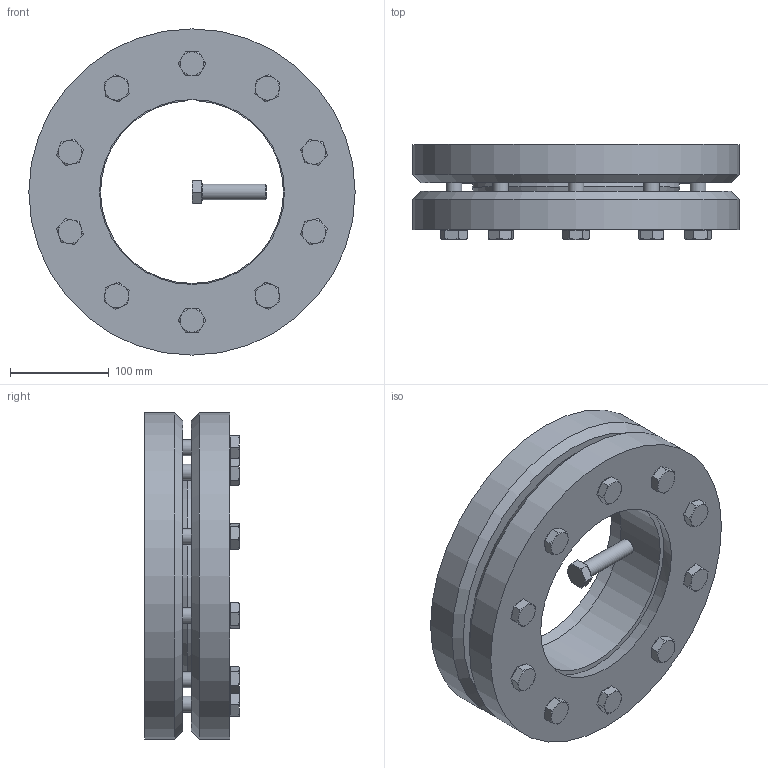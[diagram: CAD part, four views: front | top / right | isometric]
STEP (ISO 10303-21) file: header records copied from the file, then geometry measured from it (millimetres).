
FILE_DESCRIPTION( ( 'Unknown' ), '1' );
FILE_NAME( 'C:/Dokumente und Einstellungen/Sven/Desktop/homepage/cad - homepage/KBS19/KBS 19 - 185 x 330.stp', 'Unknown', ( 'Unknown' ), ( 'Unknown' ), 'XStep 1.0', 'Unknown', ' ' );
FILE_SCHEMA( ( 'automotive_design' ) );
Length unit declared in the file: millimetre
Products named in the file (3): Assem1; KBS 19 - 185 x 330; ISO 4017 - M16 x 65-N
Bounding box: 330 x 96 x 330 mm (x, y, z)
Volume: 8843428.3 mm3; surface area: 823795.3 mm2
Topology: 13 solids, 13 shells, 361 faces, 844 edges, 520 vertices
Faces by surface type: plane 193, cone 89, cylinder 68, torus 11
Full cylindrical faces by diameter (mm): 16 x51, 24 x11, 330 x4
Entity records: 2412 total; most frequent: CARTESIAN_POINT 387, DIRECTION 354, ORIENTED_EDGE 268, AXIS2_PLACEMENT_3D 156, EDGE_LOOP 143, EDGE_CURVE 134, VERTEX_POINT 101, FACE_OUTER_BOUND 93
